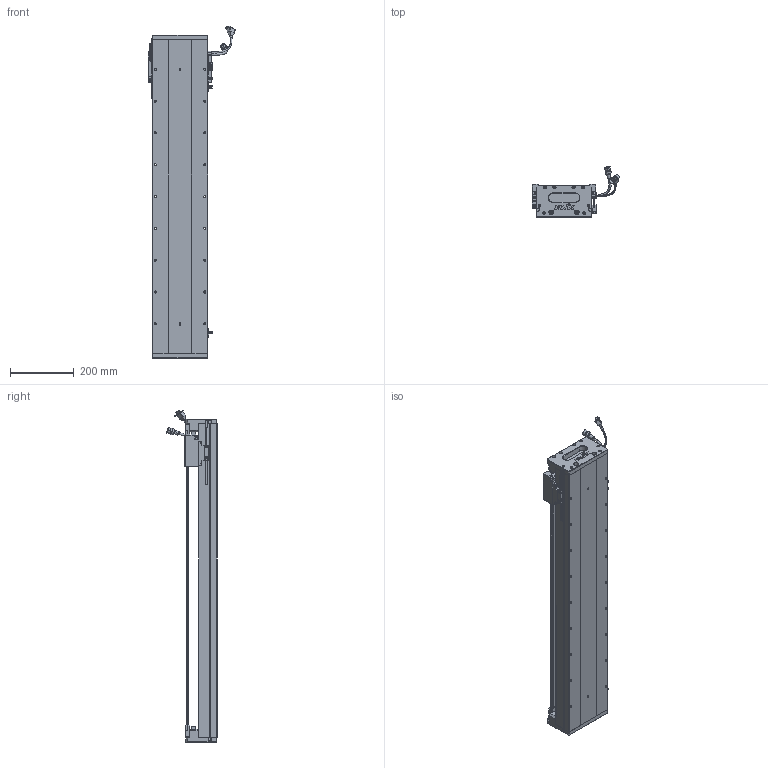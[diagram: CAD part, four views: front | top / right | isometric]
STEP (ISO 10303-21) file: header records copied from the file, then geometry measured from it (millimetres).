
FILE_DESCRIPTION (( 'STEP AP203' ), '1' );
FILE_NAME ('Z1-RY170D-1-L500-B-K.SLDASM_0800.step', '2021-05-17T08:52:01', ( '盈信电脑' ), ( '东莞市道滘镇水果街19号' ), 'SwSTEP 2.0', 'SolidWorks 2016', '' );
FILE_SCHEMA (( 'CONFIG_CONTROL_DESIGN' ));
Length unit declared in the file: millimetre
Products named in the file (36): HARNESS-Part-1; 080黍杅芛假蚾釱21遴; LABEL; 170-Z-臏賑輸盄裔(21遴); SCALE; Z1-RY170-L500詩湍145mm遵_0800; 榋妏寠巭燃_暯_M2_2; Z-RY170詩湍奻揤裔; 140蚥薯蝶輸; RY170直线电机感应器672光电感应片; 覜茼ん672; 140雄赽晤鎢ん堤盄; SCREW-M1.6-1; SCREW-M1.6; SCREW-M1.6-3; HOLDER0; COVER-Part-1; Z1-RY170臏賑輸(21遴); SCREW-M1.7; PBU_SHEET; Z-170詩湍傷裔啣; SEAL-Part-1; PSLH080_PSLF2; LABEL-Part-1; SEAL; SHIELDPLATE; HARNESS-Part-2; SCREW-M1.6-2; HARNESS; Z1-RY170-L500耀郪菁釱_0800; SCALE-Part-2; Z1-RY170D-1-L500-B-K.SLDASM_0800; Z-RY170詩湍狟揤裔; COVER; SCREW-M1.7-1; SCALE-Part-1
Assembly tree (41 placements, depth 4):
  Z1-RY170D-1-L500-B-K.SLDASM_0800
    Z1-RY170-L500耀郪菁釱_0800
    RY170直线电机感应器672光电感应片
    Z1-RY170臏賑輸(21遴)
    覜茼ん672  x3
    PSLH080_PSLF2
      SCALE
        SCALE-Part-1
        SCALE-Part-2
      HARNESS
        HARNESS-Part-1
        HARNESS-Part-2
      LABEL
        LABEL-Part-1
      COVER
        COVER-Part-1
      SEAL
        SEAL-Part-1
      榋妏寠巭燃_暯_M2_2
      SHIELDPLATE
      SCREW-M1.7
      SCREW-M1.7-1
      PBU_SHEET
      SCREW-M1.6
      SCREW-M1.6-1
      SCREW-M1.6-2
      SCREW-M1.6-3
      HOLDER0
    080黍杅芛假蚾釱21遴
    Z1-RY170-L500詩湍145mm遵_0800
    Z-170詩湍傷裔啣  x2
    Z-RY170詩湍奻揤裔  x2
    Z-RY170詩湍狟揤裔  x2
    140蚥薯蝶輸  x2
    170-Z-臏賑輸盄裔(21遴)
    140雄赽晤鎢ん堤盄
Bounding box: 275.34 x 158.11 x 1043.72 mm (x, y, z)
Volume: 5635942.2 mm3; surface area: 1394840.8 mm2
Topology: 36 solids, 36 shells, 2878 faces, 7661 edges, 4817 vertices
Faces by surface type: cylinder 1280, plane 1128, cone 348, torus 69, bspline 53
Entity records: 83157 total; most frequent: CARTESIAN_POINT 20866, ORIENTED_EDGE 12198, DIRECTION 12107, EDGE_CURVE 6099, AXIS2_PLACEMENT_3D 4408, VERTEX_POINT 3935, LINE 3291, VECTOR 3291
